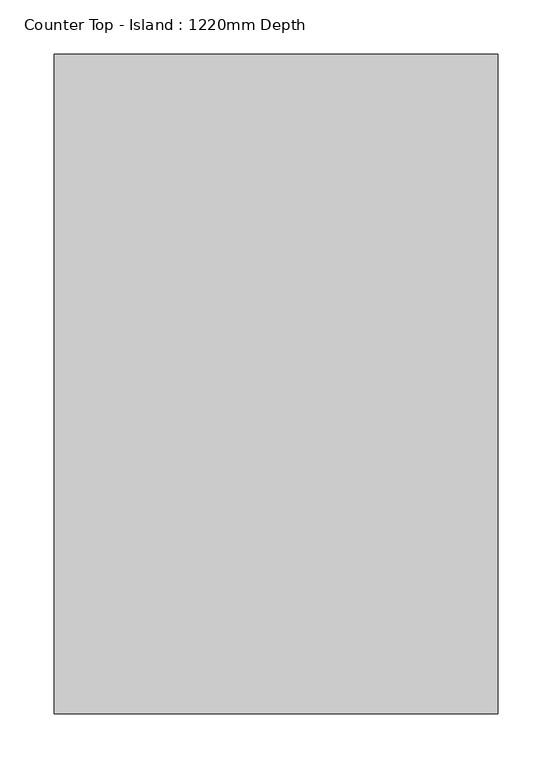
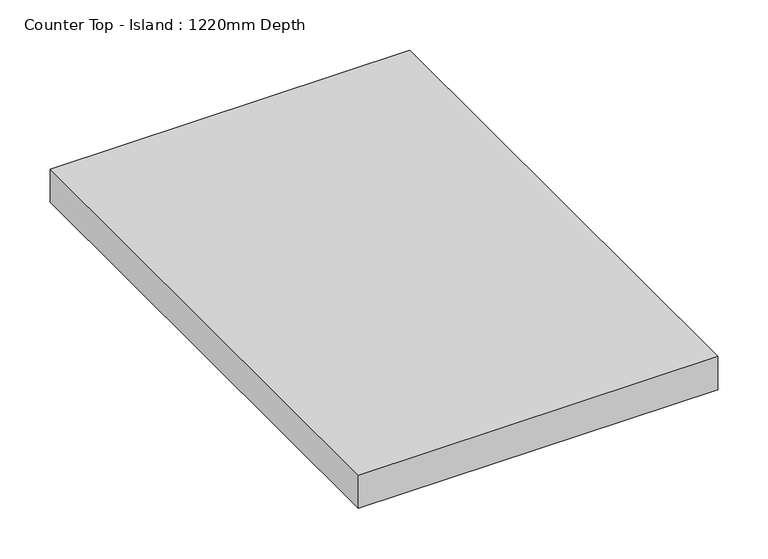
"""IFC4 building model written with IfcOpenShell, lengths in millimetres: furniture geometry, Counter Top - Island : 1220mm Depth."""

from ifc_helpers import new_model, si_unit, frame, origin, place, context, project, spatial, polyline, outline, extrude, source, transform, mapped, element, save


def counter_top_island_1220mm_depth_b2b52969(model_context):
    return source(origin(), model_context, "Body", "SweptSolid", [
        extrude(outline(polyline([(-789.8537565, 25.4), (-789.8537565, -584.6), (-1200.4622951, -584.6), (-1200.4622951, 25.4), (-789.8537565, 25.4)])), frame((0.0, 0.0, 860.0), z_axis=(0.0, 0.0, 1.0), x_axis=(1.0, 0.0, 0.0)), (0.0, 0.0, 1.0), 40.0),
    ])


if __name__ == "__main__":
    model = new_model("IFC4")
    model_context = context("Model", 3, world=origin())
    ifc_project = project(units=[si_unit("LENGTHUNIT", "METRE", prefix="MILLI")], contexts=[model_context])
    site = spatial("IfcSite", under=ifc_project)
    building = spatial("IfcBuilding", under=site)
    placement = place(None, origin())
    counter_top_island_1220mm_depth_shape = counter_top_island_1220mm_depth_b2b52969(model_context)
    element("IfcFurniture", 1, ObjectType="Counter Top - Island : 1220mm Depth", at=placement, inside=building, context=model_context, shape_type="MappedRepresentation", body=[
        mapped(counter_top_island_1220mm_depth_shape, transform((0.0, 0.0, 0.0), x_axis=(1.0, 0.0, 0.0), y_axis=(0.0, 1.0, 0.0), z_axis=(0.0, 0.0, 1.0))),
    ])
    save(model, "model.ifc")
